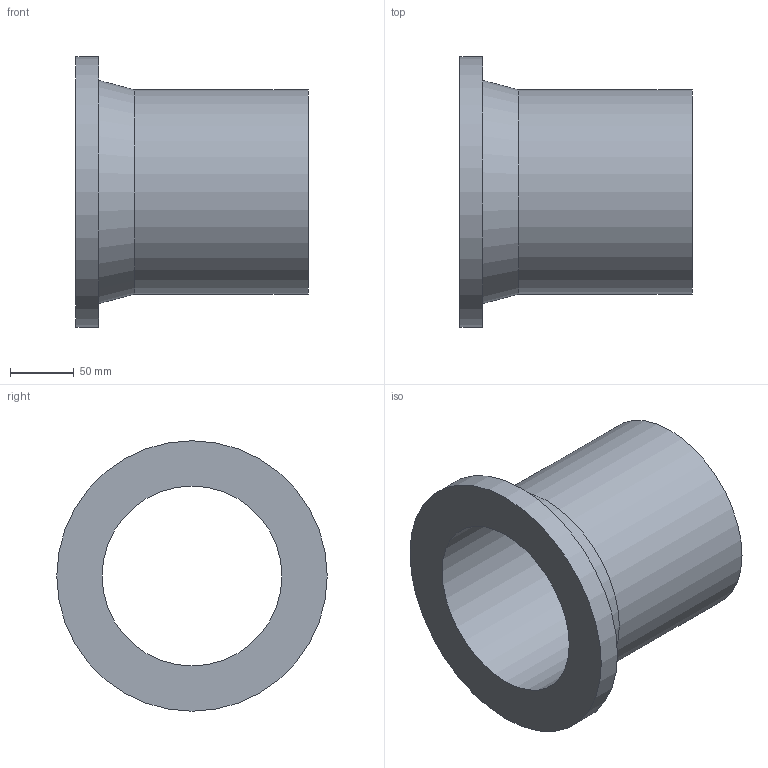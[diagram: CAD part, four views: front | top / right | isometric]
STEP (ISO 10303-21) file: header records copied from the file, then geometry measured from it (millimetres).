
FILE_DESCRIPTION(('Beschreibung'),'1');
FILE_NAME('V:/Ziel/25.80.01.063_SDR_17_PE100_160.STP', '2014-09-15T06:30:57',('Author'), ('Organization'), 'KCM Version 1.1.794.0', 'Kubotek KeyCreator', 'Authorization');
FILE_SCHEMA(('CONFIG_CONTROL_DESIGN'));
Length unit declared in the file: millimetre
Bounding box: 182 x 212 x 212 mm (x, y, z)
Volume: 1145385.4 mm3; surface area: 211644.6 mm2
Topology: 1 solids, 1 shells, 7 faces, 18 edges, 21 vertices
Faces by surface type: cylinder 3, plane 3, cone 1
Full cylindrical faces by diameter (mm): 141 x1, 160 x1, 212 x1
Entity records: 286 total; most frequent: DIRECTION 41, CARTESIAN_POINT 33, ORIENTED_EDGE 22, AXIS2_PLACEMENT_3D 15, EDGE_CURVE 11, VECTOR 11, LINE 11, EDGE_LOOP 10
